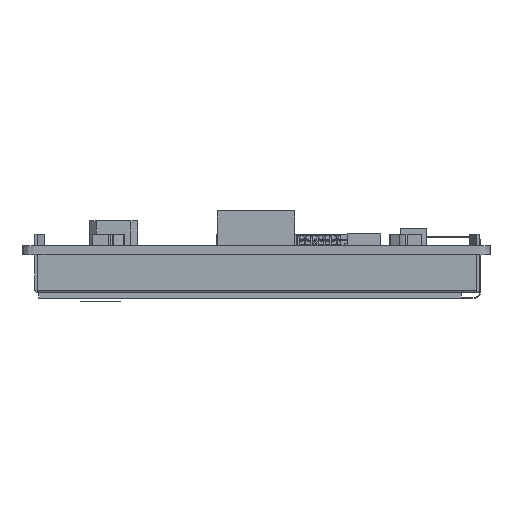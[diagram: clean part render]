
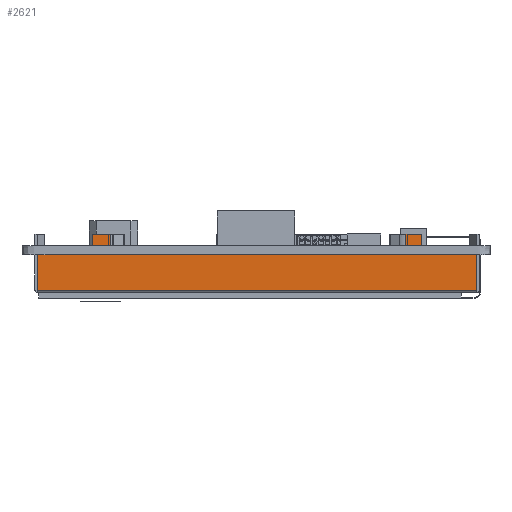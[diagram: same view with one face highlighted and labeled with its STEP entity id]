
A CAD part, left-side view. The second image highlights one B-rep face of the part: STEP entity #2621.
In plain terms, the highlighted planar face has unit normal (-1, 0, 0).
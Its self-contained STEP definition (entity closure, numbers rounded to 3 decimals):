
#2621=ADVANCED_FACE('',(#4848),#3641,.F.);
#3641=PLANE('',#27375);
#4848=FACE_OUTER_BOUND('',#6108,.T.);
#6108=EDGE_LOOP('',(#12499,#12500,#12501,#12502,#12503,#12504,#12505,#12506,
#12507,#12508,#12509,#12510,#12511,#12512,#12513,#12514));
#12499=ORIENTED_EDGE('',*,*,#19266,.F.);
#12500=ORIENTED_EDGE('',*,*,#19267,.T.);
#12501=ORIENTED_EDGE('',*,*,#19268,.T.);
#12502=ORIENTED_EDGE('',*,*,#19263,.T.);
#12503=ORIENTED_EDGE('',*,*,#19269,.T.);
#12504=ORIENTED_EDGE('',*,*,#19270,.F.);
#12505=ORIENTED_EDGE('',*,*,#19271,.T.);
#12506=ORIENTED_EDGE('',*,*,#19272,.F.);
#12507=ORIENTED_EDGE('',*,*,#19273,.F.);
#12508=ORIENTED_EDGE('',*,*,#19259,.T.);
#12509=ORIENTED_EDGE('',*,*,#19274,.T.);
#12510=ORIENTED_EDGE('',*,*,#19275,.T.);
#12511=ORIENTED_EDGE('',*,*,#19276,.F.);
#12512=ORIENTED_EDGE('',*,*,#19277,.F.);
#12513=ORIENTED_EDGE('',*,*,#19278,.F.);
#12514=ORIENTED_EDGE('',*,*,#19257,.T.);
#15971=VERTEX_POINT('',#39803);
#15973=VERTEX_POINT('',#39807);
#15974=VERTEX_POINT('',#39811);
#15976=VERTEX_POINT('',#39814);
#15978=VERTEX_POINT('',#39820);
#15980=VERTEX_POINT('',#39823);
#15982=VERTEX_POINT('',#39829);
#15983=VERTEX_POINT('',#39831);
#15984=VERTEX_POINT('',#39834);
#15985=VERTEX_POINT('',#39836);
#15986=VERTEX_POINT('',#39838);
#15987=VERTEX_POINT('',#39840);
#15988=VERTEX_POINT('',#39843);
#15989=VERTEX_POINT('',#39845);
#15990=VERTEX_POINT('',#39847);
#15991=VERTEX_POINT('',#39849);
#19257=EDGE_CURVE('',#15971,#15973,#22334,.T.);
#19259=EDGE_CURVE('',#15976,#15974,#22336,.T.);
#19263=EDGE_CURVE('',#15980,#15978,#22340,.T.);
#19266=EDGE_CURVE('',#15982,#15973,#22343,.T.);
#19267=EDGE_CURVE('',#15982,#15983,#22344,.T.);
#19268=EDGE_CURVE('',#15983,#15980,#22345,.T.);
#19269=EDGE_CURVE('',#15978,#15984,#22346,.T.);
#19270=EDGE_CURVE('',#15985,#15984,#22347,.T.);
#19271=EDGE_CURVE('',#15985,#15986,#22348,.T.);
#19272=EDGE_CURVE('',#15987,#15986,#22349,.T.);
#19273=EDGE_CURVE('',#15976,#15987,#22350,.T.);
#19274=EDGE_CURVE('',#15974,#15988,#22351,.T.);
#19275=EDGE_CURVE('',#15988,#15989,#22352,.T.);
#19276=EDGE_CURVE('',#15990,#15989,#22353,.T.);
#19277=EDGE_CURVE('',#15991,#15990,#22354,.T.);
#19278=EDGE_CURVE('',#15971,#15991,#22355,.T.);
#22334=LINE('',#39808,#25246);
#22336=LINE('',#39813,#25248);
#22340=LINE('',#39822,#25252);
#22343=LINE('',#39828,#25255);
#22344=LINE('',#39830,#25256);
#22345=LINE('',#39832,#25257);
#22346=LINE('',#39833,#25258);
#22347=LINE('',#39835,#25259);
#22348=LINE('',#39837,#25260);
#22349=LINE('',#39839,#25261);
#22350=LINE('',#39841,#25262);
#22351=LINE('',#39842,#25263);
#22352=LINE('',#39844,#25264);
#22353=LINE('',#39846,#25265);
#22354=LINE('',#39848,#25266);
#22355=LINE('',#39850,#25267);
#25246=VECTOR('',#32856,1.);
#25248=VECTOR('',#32860,1.);
#25252=VECTOR('',#32866,1.);
#25255=VECTOR('',#32871,1.);
#25256=VECTOR('',#32872,1.);
#25257=VECTOR('',#32873,1.);
#25258=VECTOR('',#32874,1.);
#25259=VECTOR('',#32875,1.);
#25260=VECTOR('',#32876,1.);
#25261=VECTOR('',#32877,1.);
#25262=VECTOR('',#32878,1.);
#25263=VECTOR('',#32879,1.);
#25264=VECTOR('',#32880,1.);
#25265=VECTOR('',#32881,1.);
#25266=VECTOR('',#32882,1.);
#25267=VECTOR('',#32883,1.);
#27375=AXIS2_PLACEMENT_3D('',#39851,#32884,#32885);
#32856=DIRECTION('',(0.,1.,0.));
#32860=DIRECTION('',(0.,1.,0.));
#32866=DIRECTION('',(0.,1.,0.));
#32871=DIRECTION('',(0.,0.,1.));
#32872=DIRECTION('',(0.,-1.,0.));
#32873=DIRECTION('',(0.,0.,1.));
#32874=DIRECTION('',(0.,0.,1.));
#32875=DIRECTION('',(0.,-1.,0.));
#32876=DIRECTION('',(0.,0.,-1.));
#32877=DIRECTION('',(0.,-1.,0.));
#32878=DIRECTION('',(0.,0.,1.));
#32879=DIRECTION('',(0.,0.,1.));
#32880=DIRECTION('',(0.,-1.,0.));
#32881=DIRECTION('',(0.,0.,-1.));
#32882=DIRECTION('',(0.,-1.,0.));
#32883=DIRECTION('',(0.,0.,1.));
#32884=DIRECTION('',(1.,0.,0.));
#32885=DIRECTION('',(0.,-1.,0.));
#39803=CARTESIAN_POINT('',(59.66,45.295,-1.6));
#39807=CARTESIAN_POINT('',(59.66,54.82,-1.6));
#39808=CARTESIAN_POINT('',(59.66,-21.2,-1.6));
#39811=CARTESIAN_POINT('',(59.66,42.295,-1.6));
#39813=CARTESIAN_POINT('',(59.66,-21.2,-1.6));
#39814=CARTESIAN_POINT('',(59.66,-8.635,-1.6));
#39820=CARTESIAN_POINT('',(59.66,-11.635,-1.6));
#39822=CARTESIAN_POINT('',(59.66,-21.2,-1.6));
#39823=CARTESIAN_POINT('',(59.66,-21.2,-1.6));
#39828=CARTESIAN_POINT('',(59.66,54.82,-8.1));
#39829=CARTESIAN_POINT('',(59.66,54.82,-7.7));
#39830=CARTESIAN_POINT('',(59.66,-21.2,-7.7));
#39831=CARTESIAN_POINT('',(59.66,-21.2,-7.7));
#39832=CARTESIAN_POINT('',(59.66,-21.2,-8.1));
#39833=CARTESIAN_POINT('',(59.66,-11.635,-1.6));
#39834=CARTESIAN_POINT('',(59.66,-11.635,2.));
#39835=CARTESIAN_POINT('',(59.66,-8.924,2.));
#39836=CARTESIAN_POINT('',(59.66,-8.924,2.));
#39837=CARTESIAN_POINT('',(59.66,-8.924,2.));
#39838=CARTESIAN_POINT('',(59.66,-8.924,0.));
#39839=CARTESIAN_POINT('',(59.66,-8.635,0.));
#39840=CARTESIAN_POINT('',(59.66,-8.635,0.));
#39841=CARTESIAN_POINT('',(59.66,-8.635,-1.6));
#39842=CARTESIAN_POINT('',(59.66,42.295,-1.6));
#39843=CARTESIAN_POINT('',(59.66,42.295,0.));
#39844=CARTESIAN_POINT('',(59.66,45.295,0.));
#39845=CARTESIAN_POINT('',(59.66,42.191,0.));
#39846=CARTESIAN_POINT('',(59.66,42.191,2.));
#39847=CARTESIAN_POINT('',(59.66,42.191,2.));
#39848=CARTESIAN_POINT('',(59.66,45.295,2.));
#39849=CARTESIAN_POINT('',(59.66,45.295,2.));
#39850=CARTESIAN_POINT('',(59.66,45.295,-1.6));
#39851=CARTESIAN_POINT('',(59.66,-21.2,-8.1));
